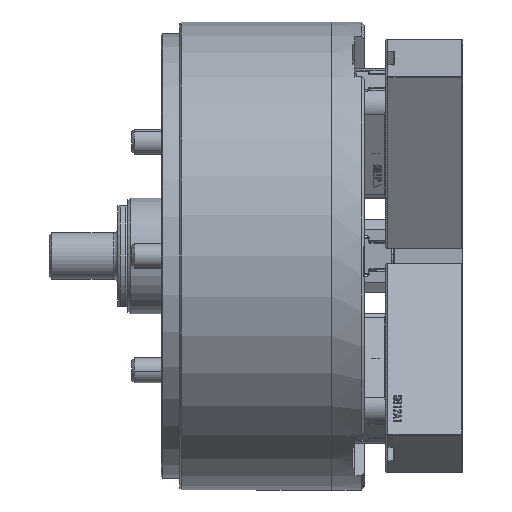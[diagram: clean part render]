
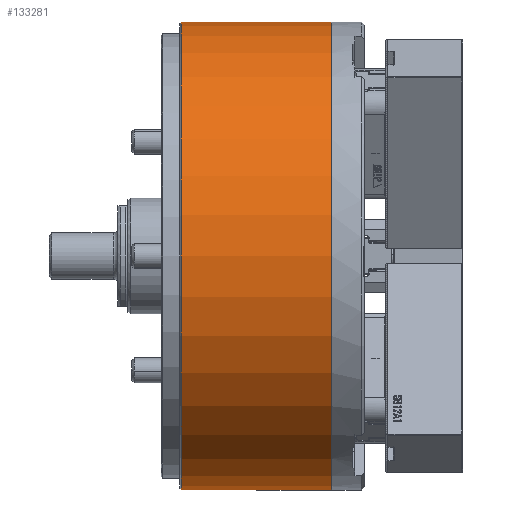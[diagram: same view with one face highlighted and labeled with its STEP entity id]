
A CAD part, front view. The second image highlights one B-rep face of the part: STEP entity #133281.
In plain terms, the highlighted cylindrical face has radius 152 mm (diameter 304 mm), a partial arc.
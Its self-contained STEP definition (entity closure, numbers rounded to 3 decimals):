
#7411 = DIRECTION ( 'NONE',  ( 0., 0., 1. ) ) ;
#7817 = VERTEX_POINT ( 'NONE', #161519 ) ;
#16129 = VECTOR ( 'NONE', #158631, 1000. ) ;
#22065 = CARTESIAN_POINT ( 'NONE',  ( -104.7, 0., 152. ) ) ;
#38289 = EDGE_CURVE ( 'NONE', #69624, #66754, #51344, .T. ) ;
#50490 = AXIS2_PLACEMENT_3D ( 'NONE', #82557, #95838, #55909 ) ;
#51344 = LINE ( 'NONE', #105701, #16129 ) ;
#52156 = EDGE_CURVE ( 'NONE', #7817, #66754, #84854, .T. ) ;
#55909 = DIRECTION ( 'NONE',  ( 0., 0., 1. ) ) ;
#58862 = EDGE_CURVE ( 'NONE', #138768, #7817, #71516, .T. ) ;
#66754 = VERTEX_POINT ( 'NONE', #22065 ) ;
#69624 = VERTEX_POINT ( 'NONE', #82090 ) ;
#70648 = DIRECTION ( 'NONE',  ( -1., 0., 0. ) ) ;
#71516 = LINE ( 'NONE', #76461, #142059 ) ;
#76461 = CARTESIAN_POINT ( 'NONE',  ( -128.459, 0., -152. ) ) ;
#82090 = CARTESIAN_POINT ( 'NONE',  ( -7.4, 0., 152. ) ) ;
#82557 = CARTESIAN_POINT ( 'NONE',  ( -128.459, 0., 0. ) ) ;
#84854 = CIRCLE ( 'NONE', #167670, 152. ) ;
#86662 = CARTESIAN_POINT ( 'NONE',  ( -7.4, 0., -152. ) ) ;
#86807 = DIRECTION ( 'NONE',  ( -1., 0., 0. ) ) ;
#91034 = CIRCLE ( 'NONE', #96431, 152. ) ;
#95838 = DIRECTION ( 'NONE',  ( -1., 0., 0. ) ) ;
#96431 = AXIS2_PLACEMENT_3D ( 'NONE', #166309, #86807, #7411 ) ;
#99243 = ORIENTED_EDGE ( 'NONE', *, *, #58862, .F. ) ;
#105701 = CARTESIAN_POINT ( 'NONE',  ( -128.459, 0., 152. ) ) ;
#116823 = CYLINDRICAL_SURFACE ( 'NONE', #50490, 152. ) ;
#120645 = ORIENTED_EDGE ( 'NONE', *, *, #52156, .F. ) ;
#127452 = EDGE_LOOP ( 'NONE', ( #99243, #151796, #154746, #120645 ) ) ;
#133281 = ADVANCED_FACE ( 'NONE', ( #156352 ), #116823, .T. ) ;
#138768 = VERTEX_POINT ( 'NONE', #86662 ) ;
#142059 = VECTOR ( 'NONE', #169308, 1000. ) ;
#150145 = CARTESIAN_POINT ( 'NONE',  ( -104.7, 0., 0. ) ) ;
#151796 = ORIENTED_EDGE ( 'NONE', *, *, #157204, .T. ) ;
#154746 = ORIENTED_EDGE ( 'NONE', *, *, #38289, .T. ) ;
#156352 = FACE_OUTER_BOUND ( 'NONE', #127452, .T. ) ;
#157204 = EDGE_CURVE ( 'NONE', #138768, #69624, #91034, .T. ) ;
#158631 = DIRECTION ( 'NONE',  ( -1., 0., 0. ) ) ;
#161519 = CARTESIAN_POINT ( 'NONE',  ( -104.7, 0., -152. ) ) ;
#163500 = DIRECTION ( 'NONE',  ( 0., 0., 1. ) ) ;
#166309 = CARTESIAN_POINT ( 'NONE',  ( -7.4, 0., 0. ) ) ;
#167670 = AXIS2_PLACEMENT_3D ( 'NONE', #150145, #70648, #163500 ) ;
#169308 = DIRECTION ( 'NONE',  ( -1., 0., 0. ) ) ;
